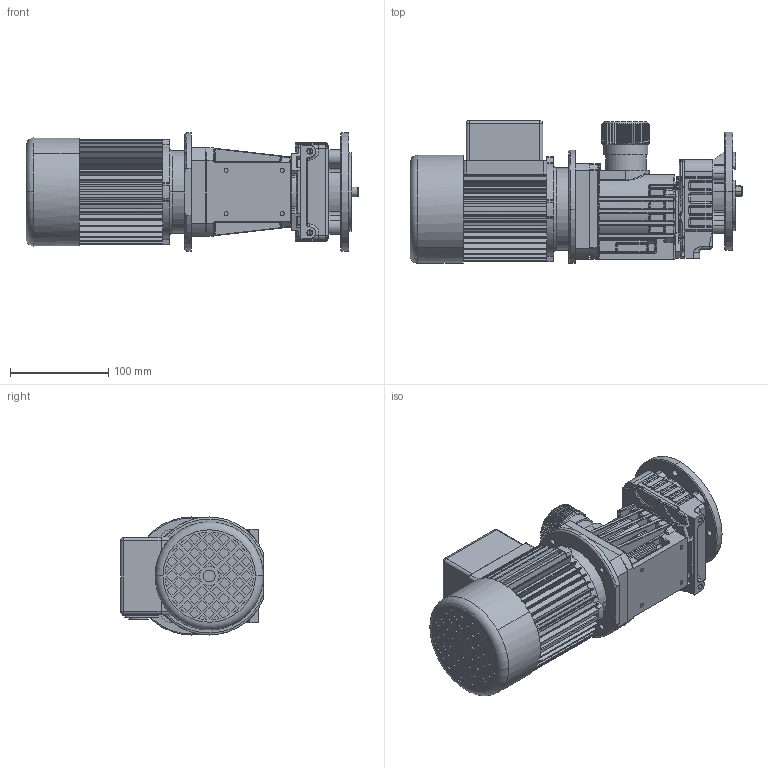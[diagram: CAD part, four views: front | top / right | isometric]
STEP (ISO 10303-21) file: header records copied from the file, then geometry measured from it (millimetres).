
FILE_DESCRIPTION(('CoCreate Modeling STEP Export'),'2;1');
FILE_NAME('K21_BF_B5_Standardstelleinrichtung_180W_Motor.stp','2010-09-07T12:39:09',(''),(''),'CoCreate Modeling STEP processor for AP214 (Solid Model)','CoCreate Modeling 16.00C 25-Feb-2009 (C) Parametric Technology GmbH','');
FILE_SCHEMA(('AUTOMOTIVE_DESIGN { 1 0 10303 214 1 1 1 1 }'));
Products named in the file (3): K21_BF_B5_Standardstelleinrichtung; 180W_Motor; K21_BF_B5_Standardstelleinrichtung_180W_Motor
Assembly tree (2 placements, depth 2):
  K21_BF_B5_Standardstelleinrichtung_180W_Motor
    180W_Motor
    K21_BF_B5_Standardstelleinrichtung
Bounding box: 337.61 x 145 x 120 mm (x, y, z)
Volume: 2760150.2 mm3; surface area: 271311 mm2
Topology: 2 solids, 7 shells, 2476 faces, 6277 edges, 3770 vertices
Faces by surface type: plane 952, cylinder 921, bspline 271, torus 183, sphere 101, cone 30, extrusion 18
Entity records: 124851 total; most frequent: CARTESIAN_POINT 58705, ORIENTED_EDGE 12268, DIRECTION 9406, EDGE_CURVE 6134, VERTEX_POINT 3770, AXIS2_PLACEMENT_3D 3279, VECTOR 2848, LINE 2830
